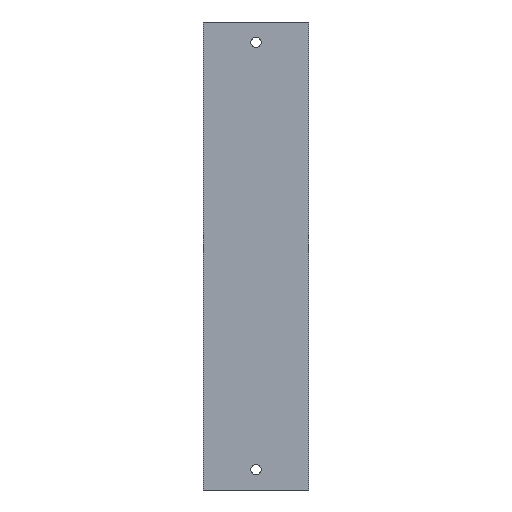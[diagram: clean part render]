
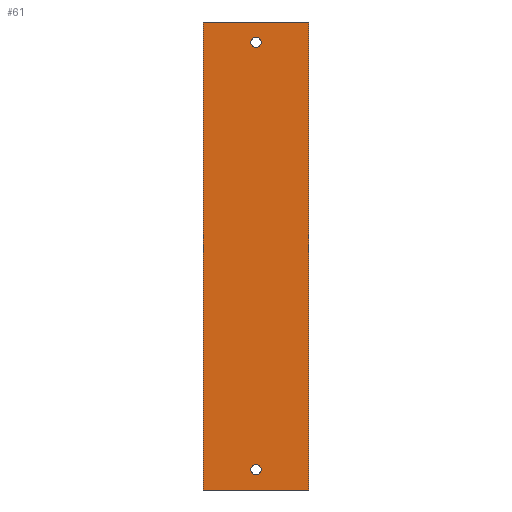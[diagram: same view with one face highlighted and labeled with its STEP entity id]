
A CAD part, front view. The second image highlights one B-rep face of the part: STEP entity #61.
In plain terms, the highlighted planar face has unit normal (0, -1, 0).
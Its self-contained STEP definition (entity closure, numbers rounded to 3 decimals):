
#16 = VERTEX_POINT ( 'NONE', #106 ) ;
#19 = CIRCLE ( 'NONE', #94, 1. ) ;
#23 = CARTESIAN_POINT ( 'NONE',  ( 0., 0., 0. ) ) ;
#25 = DIRECTION ( 'NONE',  ( 0., 0., 1. ) ) ;
#30 = AXIS2_PLACEMENT_3D ( 'NONE', #23, #248, #25 ) ;
#43 = ORIENTED_EDGE ( 'NONE', *, *, #194, .T. ) ;
#45 = VERTEX_POINT ( 'NONE', #81 ) ;
#47 = EDGE_CURVE ( 'NONE', #267, #178, #215, .T. ) ;
#49 = VECTOR ( 'NONE', #294, 1000. ) ;
#51 = CARTESIAN_POINT ( 'NONE',  ( 0., 0., 43. ) ) ;
#54 = VERTEX_POINT ( 'NONE', #51 ) ;
#57 = EDGE_CURVE ( 'NONE', #127, #45, #114, .T. ) ;
#60 = CARTESIAN_POINT ( 'NONE',  ( 10.4, 0., 46. ) ) ;
#61 = ADVANCED_FACE ( 'NONE', ( #193, #218, #297 ), #84, .F. ) ;
#66 = CARTESIAN_POINT ( 'NONE',  ( 0., 0., 42. ) ) ;
#70 = DIRECTION ( 'NONE',  ( 0., 1., 0. ) ) ;
#73 = DIRECTION ( 'NONE',  ( 0., 1., 0. ) ) ;
#78 = AXIS2_PLACEMENT_3D ( 'NONE', #308, #70, #209 ) ;
#81 = CARTESIAN_POINT ( 'NONE',  ( 10.4, 0., -46. ) ) ;
#84 = PLANE ( 'NONE',  #30 ) ;
#86 = DIRECTION ( 'NONE',  ( 0., 0., 1. ) ) ;
#90 = ORIENTED_EDGE ( 'NONE', *, *, #314, .T. ) ;
#91 = CARTESIAN_POINT ( 'NONE',  ( -10.4, 0., -46. ) ) ;
#94 = AXIS2_PLACEMENT_3D ( 'NONE', #66, #73, #284 ) ;
#95 = CIRCLE ( 'NONE', #78, 1. ) ;
#106 = CARTESIAN_POINT ( 'NONE',  ( 0., 0., 41. ) ) ;
#107 = VECTOR ( 'NONE', #204, 1000. ) ;
#110 = CARTESIAN_POINT ( 'NONE',  ( 0., 0., 42. ) ) ;
#114 = LINE ( 'NONE', #249, #49 ) ;
#119 = EDGE_LOOP ( 'NONE', ( #242, #332, #288, #247 ) ) ;
#120 = CARTESIAN_POINT ( 'NONE',  ( -10.4, 0., 46. ) ) ;
#123 = VECTOR ( 'NONE', #201, 1000. ) ;
#127 = VERTEX_POINT ( 'NONE', #60 ) ;
#129 = EDGE_LOOP ( 'NONE', ( #326, #90 ) ) ;
#132 = VERTEX_POINT ( 'NONE', #229 ) ;
#142 = CARTESIAN_POINT ( 'NONE',  ( -10.4, 0., 46. ) ) ;
#152 = DIRECTION ( 'NONE',  ( 0., 1., 0. ) ) ;
#169 = CIRCLE ( 'NONE', #216, 1. ) ;
#176 = EDGE_CURVE ( 'NONE', #178, #127, #197, .T. ) ;
#178 = VERTEX_POINT ( 'NONE', #142 ) ;
#179 = CARTESIAN_POINT ( 'NONE',  ( -10.4, 0., -46. ) ) ;
#191 = DIRECTION ( 'NONE',  ( 0., 0., 1. ) ) ;
#193 = FACE_BOUND ( 'NONE', #349, .T. ) ;
#194 = EDGE_CURVE ( 'NONE', #132, #246, #251, .T. ) ;
#197 = LINE ( 'NONE', #120, #123 ) ;
#201 = DIRECTION ( 'NONE',  ( 1., 0., 0. ) ) ;
#204 = DIRECTION ( 'NONE',  ( -1., 0., 0. ) ) ;
#209 = DIRECTION ( 'NONE',  ( 0., 0., 1. ) ) ;
#213 = EDGE_CURVE ( 'NONE', #45, #267, #257, .T. ) ;
#215 = LINE ( 'NONE', #321, #262 ) ;
#216 = AXIS2_PLACEMENT_3D ( 'NONE', #110, #152, #335 ) ;
#218 = FACE_BOUND ( 'NONE', #129, .T. ) ;
#219 = EDGE_CURVE ( 'NONE', #246, #132, #95, .T. ) ;
#220 = ORIENTED_EDGE ( 'NONE', *, *, #219, .T. ) ;
#229 = CARTESIAN_POINT ( 'NONE',  ( 0., 0., -41. ) ) ;
#242 = ORIENTED_EDGE ( 'NONE', *, *, #57, .F. ) ;
#244 = EDGE_CURVE ( 'NONE', #54, #16, #169, .T. ) ;
#246 = VERTEX_POINT ( 'NONE', #260 ) ;
#247 = ORIENTED_EDGE ( 'NONE', *, *, #213, .F. ) ;
#248 = DIRECTION ( 'NONE',  ( 0., 1., 0. ) ) ;
#249 = CARTESIAN_POINT ( 'NONE',  ( 10.4, 0., -46. ) ) ;
#251 = CIRCLE ( 'NONE', #344, 1. ) ;
#257 = LINE ( 'NONE', #91, #107 ) ;
#260 = CARTESIAN_POINT ( 'NONE',  ( 0., 0., -43. ) ) ;
#262 = VECTOR ( 'NONE', #191, 1000. ) ;
#267 = VERTEX_POINT ( 'NONE', #179 ) ;
#284 = DIRECTION ( 'NONE',  ( 0., 0., 1. ) ) ;
#288 = ORIENTED_EDGE ( 'NONE', *, *, #47, .F. ) ;
#294 = DIRECTION ( 'NONE',  ( 0., 0., -1. ) ) ;
#297 = FACE_OUTER_BOUND ( 'NONE', #119, .T. ) ;
#300 = DIRECTION ( 'NONE',  ( 0., 1., 0. ) ) ;
#308 = CARTESIAN_POINT ( 'NONE',  ( 0., 0., -42. ) ) ;
#314 = EDGE_CURVE ( 'NONE', #16, #54, #19, .T. ) ;
#321 = CARTESIAN_POINT ( 'NONE',  ( -10.4, 0., -46. ) ) ;
#326 = ORIENTED_EDGE ( 'NONE', *, *, #244, .T. ) ;
#331 = CARTESIAN_POINT ( 'NONE',  ( 0., 0., -42. ) ) ;
#332 = ORIENTED_EDGE ( 'NONE', *, *, #176, .F. ) ;
#335 = DIRECTION ( 'NONE',  ( 0., 0., 1. ) ) ;
#344 = AXIS2_PLACEMENT_3D ( 'NONE', #331, #300, #86 ) ;
#349 = EDGE_LOOP ( 'NONE', ( #43, #220 ) ) ;
